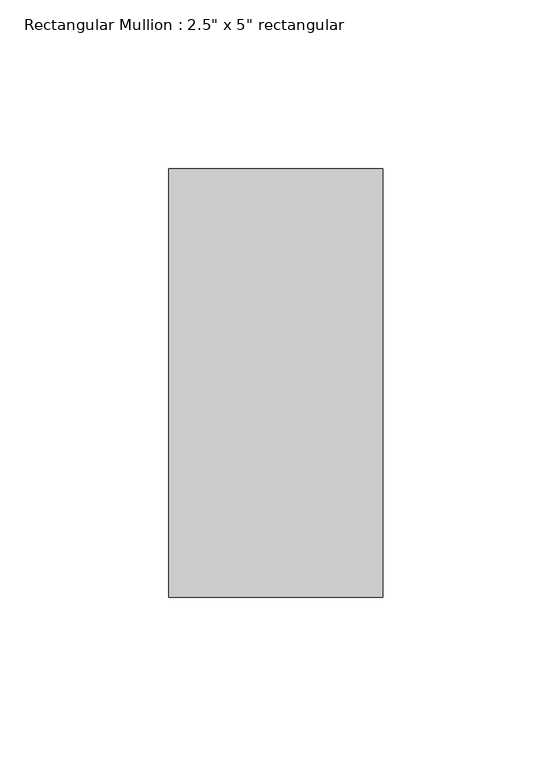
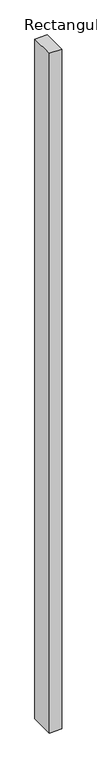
"""IFC4 building model written with IfcOpenShell, lengths in millimetres: member geometry."""

from ifc_helpers import new_model, si_unit, frame, origin, place, context, project, spatial, polyline, outline, extrude, source, transform, mapped, element, save


def member_4d31274b(model_context):
    return source(origin(), model_context, "Body", "SweptSolid", [
        extrude(outline(polyline([(0.0, 63.5), (0.0, -63.5), (-63.5, -63.5), (-63.5, 63.5), (0.0, 63.5)])), frame((0.0, 0.0, -3657.6), z_axis=(0.0, 0.0, 1.0), x_axis=(1.0, 0.0, 0.0)), (0.0, 0.0, 1.0), 3657.6),
    ])


if __name__ == "__main__":
    model = new_model("IFC4")
    model_context = context("Model", 3, world=origin())
    ifc_project = project(units=[si_unit("LENGTHUNIT", "METRE", prefix="MILLI")], contexts=[model_context])
    site = spatial("IfcSite", under=ifc_project)
    building = spatial("IfcBuilding", under=site)
    placement = place(None, origin())
    member_shape = member_4d31274b(model_context)
    element("IfcMember", 1, ObjectType="Rectangular Mullion : 2.5\" x 5\" rectangular", at=placement, inside=building, context=model_context, shape_type="MappedRepresentation", body=[
        mapped(member_shape, transform((0.0, 0.0, 0.0), x_axis=(1.0, 0.0, 0.0), y_axis=(0.0, 1.0, 0.0), z_axis=(0.0, 0.0, 1.0))),
    ])
    save(model, "model.ifc")
